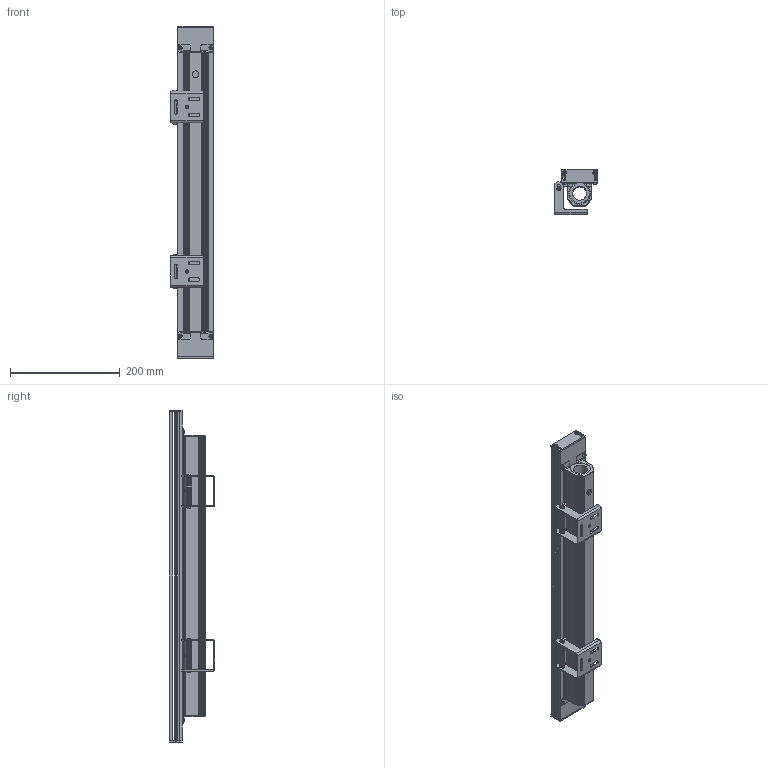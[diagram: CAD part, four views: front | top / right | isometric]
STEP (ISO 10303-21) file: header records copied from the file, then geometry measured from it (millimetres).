
FILE_DESCRIPTION((''),'2;1');
FILE_NAME('RAPPR_DI_DEFAULT_SW000','2025-07-28T10:47:05',('Piccioli'),(''),'CREO PARAMETRIC BY PTC INC, 2025010','CREO PARAMETRIC BY PTC INC, 2025010','');
FILE_SCHEMA(('CONFIG_CONTROL_DESIGN'));
Length unit declared in the file: millimetre
Products named in the file (1): RAPPR_DI_DEFAULT_SW000
Bounding box: 78.25 x 82.64 x 606 mm (x, y, z)
Surface area: 389747.9 mm2 (no closed solid volume)
Topology: 0 solids, 105 shells, 833 faces, 4479 edges, 3620 vertices
Faces by surface type: plane 396, cylinder 363, cone 31, torus 27, bspline 16
Entity records: 47340 total; most frequent: CARTESIAN_POINT 10527, DIRECTION 8360, ORIENTED_EDGE 6256, EDGE_CURVE 4479, VERTEX_POINT 3620, AXIS2_PLACEMENT_3D 3109, CIRCLE 2292, VECTOR 2142
